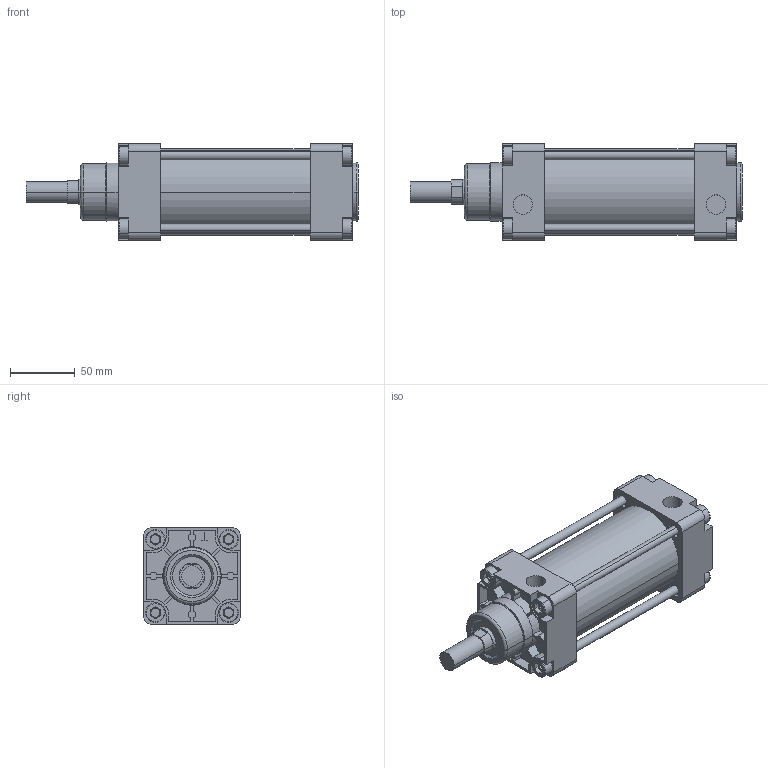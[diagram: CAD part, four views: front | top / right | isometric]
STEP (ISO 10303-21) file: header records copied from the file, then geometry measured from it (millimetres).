
FILE_DESCRIPTION(('CATIA V5 STEP Exchange'),'2;1');
FILE_NAME('D:\stp file for catalog\PNC\63\PNC 63-20-60.stp','2015-10-13T07:45:28+00:00',('none'),('none'),'Version 5-6 Release 2012','CATIA V5 STEP AP203','none');
FILE_SCHEMA(('CONFIG_CONTROL_DESIGN'));
Length unit declared in the file: millimetre
Products named in the file (1): PNC 63-20-60-00
Assembly tree (2 placements, depth 2):
  PNC 63-20-60-00
    #58
    #15151
Bounding box: 256 x 74.5 x 74.5 mm (x, y, z)
Volume: 618226 mm3; surface area: 154091.6 mm2
Topology: 6 solids, 6 shells, 572 faces, 1446 edges, 930 vertices
Faces by surface type: plane 356, cylinder 154, torus 26, cone 20, extrusion 16
Entity records: 15575 total; most frequent: CARTESIAN_POINT 3056, ORIENTED_EDGE 2892, DIRECTION 1926, EDGE_CURVE 1446, VECTOR 930, VERTEX_POINT 930, LINE 914, AXIS2_PLACEMENT_3D 732
